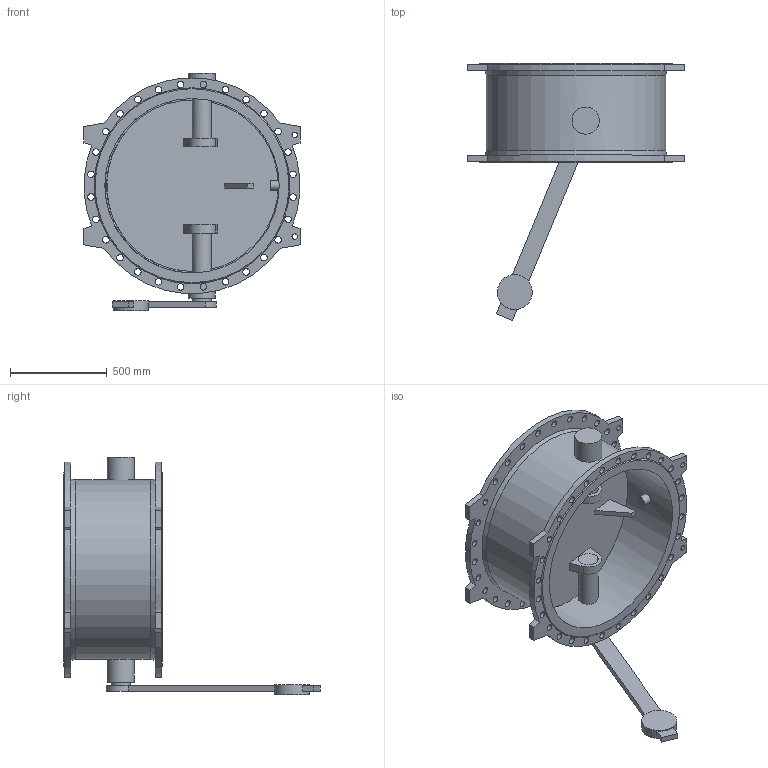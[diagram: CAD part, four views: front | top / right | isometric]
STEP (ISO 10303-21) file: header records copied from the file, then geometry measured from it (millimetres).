
FILE_DESCRIPTION(('STEP AP203'), '1');
FILE_NAME('Êëàïàí 015F.PV DN900 PN10 ñ ïðîòèâîâåñîì', '', ('UNSPECIFIED'), ('UNSPECIFIED'), 'ASCON STEP Converter 1.6', 'ASCON Math Kernel', '');
FILE_SCHEMA(('CONFIG_CONTROL_DESIGN'));
Length unit declared in the file: millimetre
Bounding box: 1115 x 1325 x 1225 mm (x, y, z)
Volume: 59776356.4 mm3; surface area: 6474558.5 mm2
Topology: 1 solids, 1 shells, 152 faces, 401 edges, 266 vertices
Faces by surface type: cylinder 82, plane 63, cone 4, extrusion 2, bspline 1
Full cylindrical faces by diameter (mm): 28 x4, 34 x56, 50 x1, 100 x3, 102 x2, 140 x2, 180 x1, 900 x1, 926 x1
Entity records: 6864 total; most frequent: CARTESIAN_POINT 1777, DIRECTION 774, ORIENTED_EDGE 638, EDGE_LOOP 374, AXIS2_PLACEMENT_3D 321, EDGE_CURVE 319, VERTEX_POINT 265, FACE_BOUND 222
